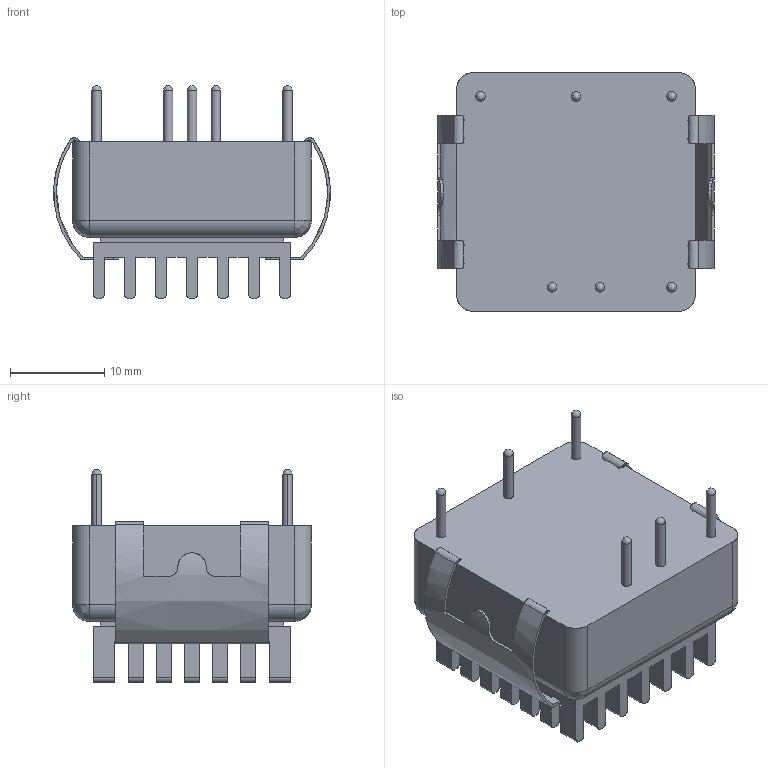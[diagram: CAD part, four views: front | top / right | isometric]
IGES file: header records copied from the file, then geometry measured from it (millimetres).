
Start section: SolidWorks IGES file using analytic representation for surfaces
Global section: file name: G:\Andrew Carter\c]]\JWK25\JWK25HK.IGS; native system: SolidWorks 2016; preprocessor: SolidWorks 2016; author: bhooper; date: 160822.124210; units: millimetre
Bounding box: 29.42 x 25.4 x 22.66 mm (x, y, z)
Surface area: 6317.6 mm2 (no closed solid volume)
Topology: 0 solids, 0 shells, 447 faces, 3580 edges, 3564 vertices
Faces by surface type: bspline 287, revolution 160
